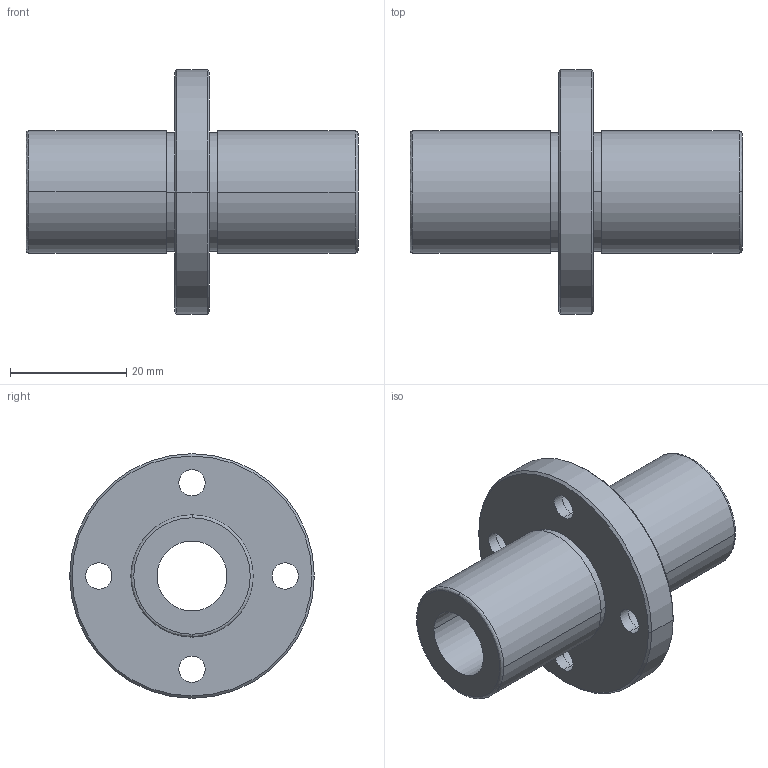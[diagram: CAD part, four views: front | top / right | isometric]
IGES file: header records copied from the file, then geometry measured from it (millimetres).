
Start section: 3D InterOp IGES (Version 21 0 1), Spatial Corp. Copyright (c) 1999-2007.
Global section: file name: NFCD-12VLUU.igs; native system: Spatial Corp.; preprocessor: 3D InterOp GENERIC/IGES 3.0; author: Noname; organization: Noname; date: 20220308.131943; units: millimetre
Bounding box: 57 x 42 x 42 mm (x, y, z)
Surface area: 9210.4 mm2 (no closed solid volume)
Topology: 0 solids, 0 shells, 46 faces, 210 edges, 210 vertices
Faces by surface type: revolution 36, extrusion 10
